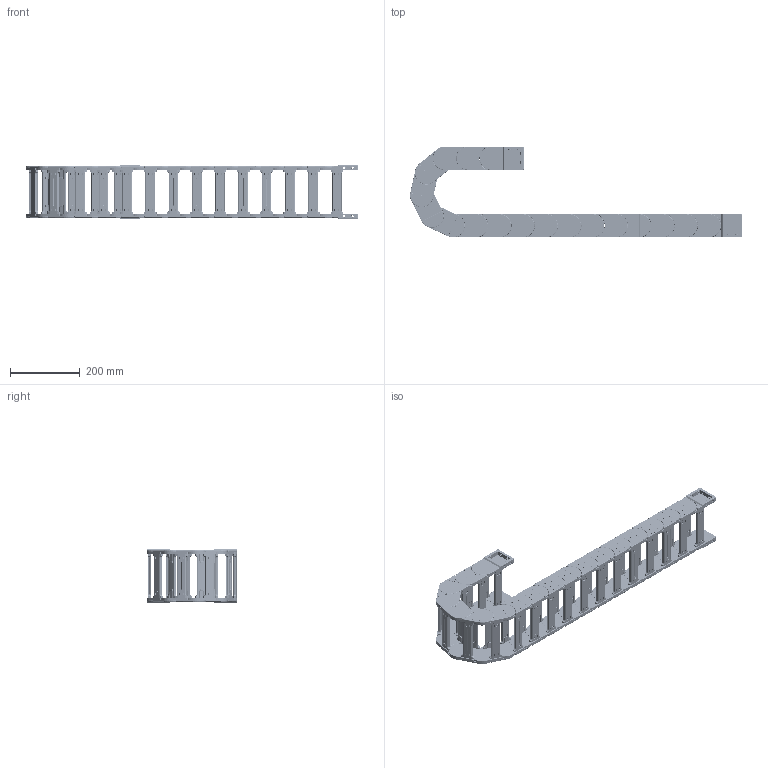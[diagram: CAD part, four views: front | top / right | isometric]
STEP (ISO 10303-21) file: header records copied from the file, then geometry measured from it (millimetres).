
FILE_DESCRIPTION (( 'STEP AP214' ), '1' );
FILE_NAME ('J45Q.1.125S-3D賦凳芞.STEP', '2019-01-10T00:11:33', ( 'Sky123.Org' ), ( 'Sky123.Org' ), 'SwSTEP 2.0', 'SolidWorks 2017', '' );
FILE_SCHEMA (( 'AUTOMOTIVE_DESIGN' ));
Length unit declared in the file: millimetre
Products named in the file (10): 5-N45X100-1; J45.1結え; 45-崝Ч翋极2; 45-崝Ч翋极1-R250; J45Q.1.125S-3D賦凳芞; 5-N45X75-源諉俋; 45-N源諉芛俋; 5-N45X75-源諉囀; 45-臏簽1; 45-N源諉芛囀
Assembly tree (55 placements, depth 3):
  J45Q.1.125S-3D賦凳芞
    5-N45X100-1  x17
      45-崝Ч翋极1-R250
      45-崝Ч翋极2
      J45.1結え
    5-N45X75-源諉囀
      45-N源諉芛囀  x2
      J45.1結え  x2
      45-臏簽1  x12
    5-N45X75-源諉俋
      45-N源諉芛俋  x2
      J45.1結え  x2
      45-臏簽1  x12
Bounding box: 954.91 x 261 x 154 mm (x, y, z)
Volume: 2905274.6 mm3; surface area: 1244258.6 mm2
Topology: 100 solids, 100 shells, 20080 faces, 51658 edges, 31520 vertices
Faces by surface type: plane 7348, cylinder 6440, bspline 3788, torus 1508, sphere 768, cone 228
Entity records: 33152 total; most frequent: CARTESIAN_POINT 10875, ORIENTED_EDGE 4608, DIRECTION 4494, EDGE_CURVE 2304, AXIS2_PLACEMENT_3D 1615, VERTEX_POINT 1438, LINE 1264, VECTOR 1264
